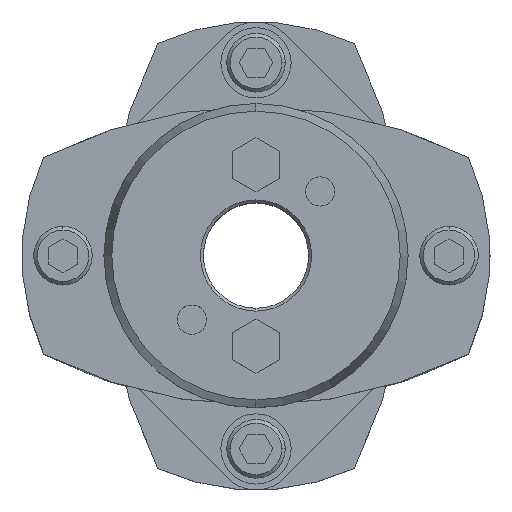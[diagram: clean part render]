
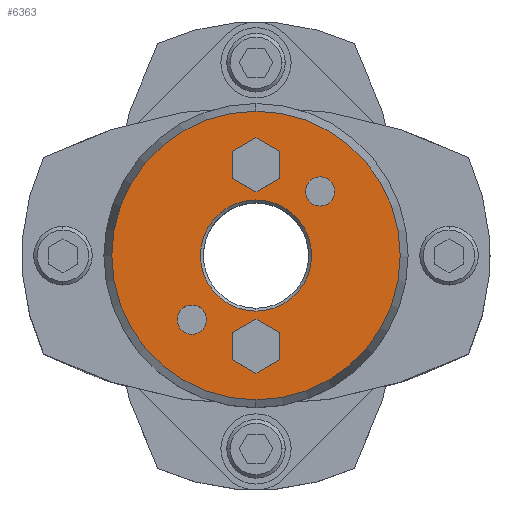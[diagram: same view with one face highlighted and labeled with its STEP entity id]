
A CAD part, top view. The second image highlights one B-rep face of the part: STEP entity #6363.
In plain terms, the highlighted planar face has unit normal (0, 0, 1).
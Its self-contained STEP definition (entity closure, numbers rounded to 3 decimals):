
#1677=CARTESIAN_POINT('',(0.,9.5,45.25));
#1678=VERTEX_POINT('',#1677);
#1694=CARTESIAN_POINT('',(0.,-9.5,45.25));
#1695=VERTEX_POINT('',#1694);
#1702=CARTESIAN_POINT('',(0.,0.,45.25));
#1703=DIRECTION('',(0.0,0.0,1.0));
#1704=DIRECTION('',(0.0,1.0,0.0));
#1705=AXIS2_PLACEMENT_3D('',#1702,#1703,#1704);
#1706=CIRCLE('',#1705,9.5);
#1707=EDGE_CURVE('',#1695,#1678,#1706,.T.);
#1865=CARTESIAN_POINT('',(0.,-24.66,45.25));
#1866=VERTEX_POINT('',#1865);
#1873=CARTESIAN_POINT('',(0.,24.66,45.25));
#1874=VERTEX_POINT('',#1873);
#1875=CARTESIAN_POINT('',(0.,0.,45.25));
#1876=DIRECTION('',(0.0,0.0,-1.0));
#1877=DIRECTION('',(0.0,-1.0,0.0));
#1878=AXIS2_PLACEMENT_3D('',#1875,#1876,#1877);
#1879=CIRCLE('',#1878,24.66);
#1880=EDGE_CURVE('',#1866,#1874,#1879,.T.);
#1975=CARTESIAN_POINT('',(10.96,13.46,45.25));
#1976=VERTEX_POINT('',#1975);
#1992=CARTESIAN_POINT('',(10.96,8.46,45.25));
#1993=VERTEX_POINT('',#1992);
#2000=CARTESIAN_POINT('',(10.96,10.96,45.25));
#2001=DIRECTION('',(0.0,0.0,-1.0));
#2002=DIRECTION('',(0.0,1.0,0.0));
#2003=AXIS2_PLACEMENT_3D('',#2000,#2001,#2002);
#2004=CIRCLE('',#2003,2.5);
#2005=EDGE_CURVE('',#1976,#1993,#2004,.T.);
#2017=CARTESIAN_POINT('',(-10.96,-8.46,45.25));
#2018=VERTEX_POINT('',#2017);
#2034=CARTESIAN_POINT('',(-10.96,-13.46,45.25));
#2035=VERTEX_POINT('',#2034);
#2042=CARTESIAN_POINT('',(-10.96,-10.96,45.25));
#2043=DIRECTION('',(0.0,0.0,-1.0));
#2044=DIRECTION('',(0.0,1.0,0.0));
#2045=AXIS2_PLACEMENT_3D('',#2042,#2043,#2044);
#2046=CIRCLE('',#2045,2.5);
#2047=EDGE_CURVE('',#2018,#2035,#2046,.T.);
#5607=CARTESIAN_POINT('',(0.,-10.881,45.25));
#5608=VERTEX_POINT('',#5607);
#5615=CARTESIAN_POINT('',(-4.,-13.191,45.25));
#5616=VERTEX_POINT('',#5615);
#5617=CARTESIAN_POINT('',(-4.,-13.191,45.25));
#5618=DIRECTION('',(0.866,0.5,0.0));
#5619=VECTOR('',#5618,4.619);
#5620=LINE('',#5617,#5619);
#5621=EDGE_CURVE('',#5616,#5608,#5620,.T.);
#5645=CARTESIAN_POINT('',(4.,-13.191,45.25));
#5646=VERTEX_POINT('',#5645);
#5653=CARTESIAN_POINT('',(0.,-10.881,45.25));
#5654=DIRECTION('',(0.866,-0.5,0.0));
#5655=VECTOR('',#5654,4.619);
#5656=LINE('',#5653,#5655);
#5657=EDGE_CURVE('',#5608,#5646,#5656,.T.);
#5676=CARTESIAN_POINT('',(4.,-17.809,45.25));
#5677=VERTEX_POINT('',#5676);
#5684=CARTESIAN_POINT('',(4.,-13.191,45.25));
#5685=DIRECTION('',(0.0,-1.0,0.0));
#5686=VECTOR('',#5685,4.619);
#5687=LINE('',#5684,#5686);
#5688=EDGE_CURVE('',#5646,#5677,#5687,.T.);
#5707=CARTESIAN_POINT('',(0.,-20.119,45.25));
#5708=VERTEX_POINT('',#5707);
#5715=CARTESIAN_POINT('',(4.,-17.809,45.25));
#5716=DIRECTION('',(-0.866,-0.5,0.0));
#5717=VECTOR('',#5716,4.619);
#5718=LINE('',#5715,#5717);
#5719=EDGE_CURVE('',#5677,#5708,#5718,.T.);
#5738=CARTESIAN_POINT('',(-4.,-17.809,45.25));
#5739=VERTEX_POINT('',#5738);
#5746=CARTESIAN_POINT('',(0.,-20.119,45.25));
#5747=DIRECTION('',(-0.866,0.5,0.0));
#5748=VECTOR('',#5747,4.619);
#5749=LINE('',#5746,#5748);
#5750=EDGE_CURVE('',#5708,#5739,#5749,.T.);
#5768=CARTESIAN_POINT('',(-4.,-17.809,45.25));
#5769=DIRECTION('',(0.0,1.0,0.0));
#5770=VECTOR('',#5769,4.619);
#5771=LINE('',#5768,#5770);
#5772=EDGE_CURVE('',#5739,#5616,#5771,.T.);
#5807=CARTESIAN_POINT('',(0.,20.119,45.25));
#5808=VERTEX_POINT('',#5807);
#5815=CARTESIAN_POINT('',(-4.,17.809,45.25));
#5816=VERTEX_POINT('',#5815);
#5817=CARTESIAN_POINT('',(-4.,17.809,45.25));
#5818=DIRECTION('',(0.866,0.5,0.0));
#5819=VECTOR('',#5818,4.619);
#5820=LINE('',#5817,#5819);
#5821=EDGE_CURVE('',#5816,#5808,#5820,.T.);
#5845=CARTESIAN_POINT('',(4.,17.809,45.25));
#5846=VERTEX_POINT('',#5845);
#5853=CARTESIAN_POINT('',(0.,20.119,45.25));
#5854=DIRECTION('',(0.866,-0.5,0.0));
#5855=VECTOR('',#5854,4.619);
#5856=LINE('',#5853,#5855);
#5857=EDGE_CURVE('',#5808,#5846,#5856,.T.);
#5876=CARTESIAN_POINT('',(4.,13.191,45.25));
#5877=VERTEX_POINT('',#5876);
#5884=CARTESIAN_POINT('',(4.,17.809,45.25));
#5885=DIRECTION('',(0.0,-1.0,0.0));
#5886=VECTOR('',#5885,4.619);
#5887=LINE('',#5884,#5886);
#5888=EDGE_CURVE('',#5846,#5877,#5887,.T.);
#5907=CARTESIAN_POINT('',(0.,10.881,45.25));
#5908=VERTEX_POINT('',#5907);
#5915=CARTESIAN_POINT('',(4.,13.191,45.25));
#5916=DIRECTION('',(-0.866,-0.5,0.0));
#5917=VECTOR('',#5916,4.619);
#5918=LINE('',#5915,#5917);
#5919=EDGE_CURVE('',#5877,#5908,#5918,.T.);
#5938=CARTESIAN_POINT('',(-4.,13.191,45.25));
#5939=VERTEX_POINT('',#5938);
#5946=CARTESIAN_POINT('',(0.,10.881,45.25));
#5947=DIRECTION('',(-0.866,0.5,0.0));
#5948=VECTOR('',#5947,4.619);
#5949=LINE('',#5946,#5948);
#5950=EDGE_CURVE('',#5908,#5939,#5949,.T.);
#5968=CARTESIAN_POINT('',(-4.,13.191,45.25));
#5969=DIRECTION('',(0.0,1.0,0.0));
#5970=VECTOR('',#5969,4.619);
#5971=LINE('',#5968,#5970);
#5972=EDGE_CURVE('',#5939,#5816,#5971,.T.);
#5998=CARTESIAN_POINT('',(-10.96,-10.96,45.25));
#5999=DIRECTION('',(0.0,0.0,-1.0));
#6000=DIRECTION('',(0.0,1.0,0.0));
#6001=AXIS2_PLACEMENT_3D('',#5998,#5999,#6000);
#6002=CIRCLE('',#6001,2.5);
#6003=EDGE_CURVE('',#2035,#2018,#6002,.T.);
#6032=CARTESIAN_POINT('',(10.96,10.96,45.25));
#6033=DIRECTION('',(0.0,0.0,-1.0));
#6034=DIRECTION('',(0.0,1.0,0.0));
#6035=AXIS2_PLACEMENT_3D('',#6032,#6033,#6034);
#6036=CIRCLE('',#6035,2.5);
#6037=EDGE_CURVE('',#1993,#1976,#6036,.T.);
#6310=CARTESIAN_POINT('',(0.,0.,45.25));
#6311=DIRECTION('',(0.0,0.0,-1.0));
#6312=DIRECTION('',(0.0,-1.0,0.0));
#6313=AXIS2_PLACEMENT_3D('',#6310,#6311,#6312);
#6314=CIRCLE('',#6313,24.66);
#6315=EDGE_CURVE('',#1874,#1866,#6314,.T.);
#6320=CARTESIAN_POINT('',(0.,2.364,45.25));
#6321=DIRECTION('',(0.0,0.0,1.0));
#6322=DIRECTION('',(0.0,1.0,0.0));
#6323=AXIS2_PLACEMENT_3D('',#6320,#6321,#6322);
#6324=PLANE('',#6323);
#6325=ORIENTED_EDGE('',*,*,#6315,.F.);
#6326=ORIENTED_EDGE('',*,*,#1880,.F.);
#6327=EDGE_LOOP('',(#6325,#6326));
#6328=FACE_OUTER_BOUND('',#6327,.T.);
#6329=ORIENTED_EDGE('',*,*,#5621,.T.);
#6330=ORIENTED_EDGE('',*,*,#5657,.T.);
#6331=ORIENTED_EDGE('',*,*,#5688,.T.);
#6332=ORIENTED_EDGE('',*,*,#5719,.T.);
#6333=ORIENTED_EDGE('',*,*,#5750,.T.);
#6334=ORIENTED_EDGE('',*,*,#5772,.T.);
#6335=EDGE_LOOP('',(#6329,#6330,#6331,#6332,#6333,#6334));
#6336=FACE_BOUND('',#6335,.T.);
#6337=ORIENTED_EDGE('',*,*,#5821,.T.);
#6338=ORIENTED_EDGE('',*,*,#5857,.T.);
#6339=ORIENTED_EDGE('',*,*,#5888,.T.);
#6340=ORIENTED_EDGE('',*,*,#5919,.T.);
#6341=ORIENTED_EDGE('',*,*,#5950,.T.);
#6342=ORIENTED_EDGE('',*,*,#5972,.T.);
#6343=EDGE_LOOP('',(#6337,#6338,#6339,#6340,#6341,#6342));
#6344=FACE_BOUND('',#6343,.T.);
#6345=ORIENTED_EDGE('',*,*,#2047,.T.);
#6346=ORIENTED_EDGE('',*,*,#6003,.T.);
#6347=EDGE_LOOP('',(#6345,#6346));
#6348=FACE_BOUND('',#6347,.T.);
#6349=ORIENTED_EDGE('',*,*,#2005,.T.);
#6350=ORIENTED_EDGE('',*,*,#6037,.T.);
#6351=EDGE_LOOP('',(#6349,#6350));
#6352=FACE_BOUND('',#6351,.T.);
#6353=ORIENTED_EDGE('',*,*,#1707,.F.);
#6354=CARTESIAN_POINT('',(0.,0.,45.25));
#6355=DIRECTION('',(0.0,0.0,1.0));
#6356=DIRECTION('',(0.0,1.0,0.0));
#6357=AXIS2_PLACEMENT_3D('',#6354,#6355,#6356);
#6358=CIRCLE('',#6357,9.5);
#6359=EDGE_CURVE('',#1678,#1695,#6358,.T.);
#6360=ORIENTED_EDGE('',*,*,#6359,.F.);
#6361=EDGE_LOOP('',(#6353,#6360));
#6362=FACE_BOUND('',#6361,.T.);
#6363=ADVANCED_FACE('',(#6328,#6336,#6344,#6348,#6352,#6362),#6324,.T.);
